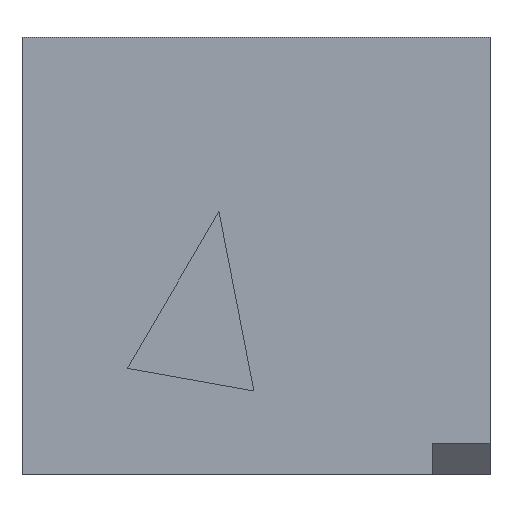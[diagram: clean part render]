
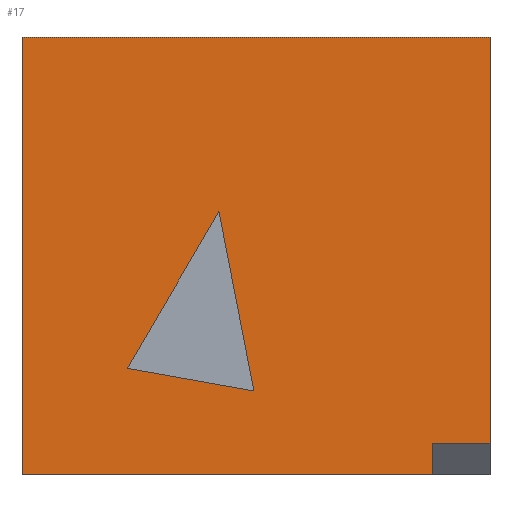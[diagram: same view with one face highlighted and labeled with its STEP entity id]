
A CAD part, left-side view. The second image highlights one B-rep face of the part: STEP entity #17.
In plain terms, the highlighted planar face has unit normal (-1, 0, 0).
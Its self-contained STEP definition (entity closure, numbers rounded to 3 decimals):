
#17 = ADVANCED_FACE('f000',(#18,#193),#32,.F.);
#18 = FACE_BOUND('',#19,.F.);
#19 = EDGE_LOOP('',(#20,#55,#83,#111,#139,#167));
#20 = ORIENTED_EDGE('',*,*,#21,.F.);
#21 = EDGE_CURVE('',#22,#24,#26,.T.);
#22 = VERTEX_POINT('',#23);
#23 = CARTESIAN_POINT('',(0.,0.,2.905));
#24 = VERTEX_POINT('',#25);
#25 = CARTESIAN_POINT('',(0.,0.,40.275));
#26 = SURFACE_CURVE('',#27,(#31,#43),.PCURVE_S1.);
#27 = LINE('',#28,#29);
#28 = CARTESIAN_POINT('',(0.,0.,0.));
#29 = VECTOR('',#30,1.);
#30 = DIRECTION('',(0.,0.,1.));
#31 = PCURVE('',#32,#37);
#32 = PLANE('',#33);
#33 = AXIS2_PLACEMENT_3D('',#34,#35,#36);
#34 = CARTESIAN_POINT('',(0.,0.,0.));
#35 = DIRECTION('',(1.,0.,-0.));
#36 = DIRECTION('',(0.,0.,1.));
#37 = DEFINITIONAL_REPRESENTATION('',(#38),#42);
#38 = LINE('',#39,#40);
#39 = CARTESIAN_POINT('',(0.,0.));
#40 = VECTOR('',#41,1.);
#41 = DIRECTION('',(1.,0.));
#42 = ( GEOMETRIC_REPRESENTATION_CONTEXT(2) 
PARAMETRIC_REPRESENTATION_CONTEXT() REPRESENTATION_CONTEXT('2D SPACE',''
  ) );
#43 = PCURVE('',#44,#49);
#44 = PLANE('',#45);
#45 = AXIS2_PLACEMENT_3D('',#46,#47,#48);
#46 = CARTESIAN_POINT('',(0.,0.,0.));
#47 = DIRECTION('',(-0.,1.,0.));
#48 = DIRECTION('',(0.,0.,1.));
#49 = DEFINITIONAL_REPRESENTATION('',(#50),#54);
#50 = LINE('',#51,#52);
#51 = CARTESIAN_POINT('',(0.,0.));
#52 = VECTOR('',#53,1.);
#53 = DIRECTION('',(1.,0.));
#54 = ( GEOMETRIC_REPRESENTATION_CONTEXT(2) 
PARAMETRIC_REPRESENTATION_CONTEXT() REPRESENTATION_CONTEXT('2D SPACE',''
  ) );
#55 = ORIENTED_EDGE('',*,*,#56,.T.);
#56 = EDGE_CURVE('',#22,#57,#59,.T.);
#57 = VERTEX_POINT('',#58);
#58 = CARTESIAN_POINT('',(0.,5.306,2.905));
#59 = SURFACE_CURVE('',#60,(#64,#71),.PCURVE_S1.);
#60 = LINE('',#61,#62);
#61 = CARTESIAN_POINT('',(0.,0.,2.905));
#62 = VECTOR('',#63,1.);
#63 = DIRECTION('',(-0.,1.,0.));
#64 = PCURVE('',#32,#65);
#65 = DEFINITIONAL_REPRESENTATION('',(#66),#70);
#66 = LINE('',#67,#68);
#67 = CARTESIAN_POINT('',(2.905,0.));
#68 = VECTOR('',#69,1.);
#69 = DIRECTION('',(0.,-1.));
#70 = ( GEOMETRIC_REPRESENTATION_CONTEXT(2) 
PARAMETRIC_REPRESENTATION_CONTEXT() REPRESENTATION_CONTEXT('2D SPACE',''
  ) );
#71 = PCURVE('',#72,#77);
#72 = PLANE('',#73);
#73 = AXIS2_PLACEMENT_3D('',#74,#75,#76);
#74 = CARTESIAN_POINT('',(6.833,0.,0.));
#75 = DIRECTION('',(0.391,0.,0.92));
#76 = DIRECTION('',(-0.92,0.,0.391));
#77 = DEFINITIONAL_REPRESENTATION('',(#78),#82);
#78 = LINE('',#79,#80);
#79 = CARTESIAN_POINT('',(7.425,0.));
#80 = VECTOR('',#81,1.);
#81 = DIRECTION('',(0.,-1.));
#82 = ( GEOMETRIC_REPRESENTATION_CONTEXT(2) 
PARAMETRIC_REPRESENTATION_CONTEXT() REPRESENTATION_CONTEXT('2D SPACE',''
  ) );
#83 = ORIENTED_EDGE('',*,*,#84,.T.);
#84 = EDGE_CURVE('',#57,#85,#87,.T.);
#85 = VERTEX_POINT('',#86);
#86 = CARTESIAN_POINT('',(0.,5.306,0.));
#87 = SURFACE_CURVE('',#88,(#92,#99),.PCURVE_S1.);
#88 = LINE('',#89,#90);
#89 = CARTESIAN_POINT('',(0.,5.306,2.905));
#90 = VECTOR('',#91,1.);
#91 = DIRECTION('',(0.,0.,-1.));
#92 = PCURVE('',#32,#93);
#93 = DEFINITIONAL_REPRESENTATION('',(#94),#98);
#94 = LINE('',#95,#96);
#95 = CARTESIAN_POINT('',(2.905,-5.306));
#96 = VECTOR('',#97,1.);
#97 = DIRECTION('',(-1.,0.));
#98 = ( GEOMETRIC_REPRESENTATION_CONTEXT(2) 
PARAMETRIC_REPRESENTATION_CONTEXT() REPRESENTATION_CONTEXT('2D SPACE',''
  ) );
#99 = PCURVE('',#100,#105);
#100 = PLANE('',#101);
#101 = AXIS2_PLACEMENT_3D('',#102,#103,#104);
#102 = CARTESIAN_POINT('',(2.838,5.306,0.874)
  );
#103 = DIRECTION('',(-0.,-1.,-0.));
#104 = DIRECTION('',(0.,0.,-1.));
#105 = DEFINITIONAL_REPRESENTATION('',(#106),#110);
#106 = LINE('',#107,#108);
#107 = CARTESIAN_POINT('',(-2.031,-2.838));
#108 = VECTOR('',#109,1.);
#109 = DIRECTION('',(1.,0.));
#110 = ( GEOMETRIC_REPRESENTATION_CONTEXT(2) 
PARAMETRIC_REPRESENTATION_CONTEXT() REPRESENTATION_CONTEXT('2D SPACE',''
  ) );
#111 = ORIENTED_EDGE('',*,*,#112,.T.);
#112 = EDGE_CURVE('',#85,#113,#115,.T.);
#113 = VERTEX_POINT('',#114);
#114 = CARTESIAN_POINT('',(0.,43.039,0.));
#115 = SURFACE_CURVE('',#116,(#120,#127),.PCURVE_S1.);
#116 = LINE('',#117,#118);
#117 = CARTESIAN_POINT('',(0.,0.,0.));
#118 = VECTOR('',#119,1.);
#119 = DIRECTION('',(-0.,1.,0.));
#120 = PCURVE('',#32,#121);
#121 = DEFINITIONAL_REPRESENTATION('',(#122),#126);
#122 = LINE('',#123,#124);
#123 = CARTESIAN_POINT('',(0.,0.));
#124 = VECTOR('',#125,1.);
#125 = DIRECTION('',(0.,-1.));
#126 = ( GEOMETRIC_REPRESENTATION_CONTEXT(2) 
PARAMETRIC_REPRESENTATION_CONTEXT() REPRESENTATION_CONTEXT('2D SPACE',''
  ) );
#127 = PCURVE('',#128,#133);
#128 = PLANE('',#129);
#129 = AXIS2_PLACEMENT_3D('',#130,#131,#132);
#130 = CARTESIAN_POINT('',(0.,0.,0.));
#131 = DIRECTION('',(0.,0.,1.));
#132 = DIRECTION('',(1.,0.,-0.));
#133 = DEFINITIONAL_REPRESENTATION('',(#134),#138);
#134 = LINE('',#135,#136);
#135 = CARTESIAN_POINT('',(0.,0.));
#136 = VECTOR('',#137,1.);
#137 = DIRECTION('',(0.,1.));
#138 = ( GEOMETRIC_REPRESENTATION_CONTEXT(2) 
PARAMETRIC_REPRESENTATION_CONTEXT() REPRESENTATION_CONTEXT('2D SPACE',''
  ) );
#139 = ORIENTED_EDGE('',*,*,#140,.T.);
#140 = EDGE_CURVE('',#113,#141,#143,.T.);
#141 = VERTEX_POINT('',#142);
#142 = CARTESIAN_POINT('',(0.,43.039,40.275));
#143 = SURFACE_CURVE('',#144,(#148,#155),.PCURVE_S1.);
#144 = LINE('',#145,#146);
#145 = CARTESIAN_POINT('',(0.,43.039,0.));
#146 = VECTOR('',#147,1.);
#147 = DIRECTION('',(0.,0.,1.));
#148 = PCURVE('',#32,#149);
#149 = DEFINITIONAL_REPRESENTATION('',(#150),#154);
#150 = LINE('',#151,#152);
#151 = CARTESIAN_POINT('',(0.,-43.039));
#152 = VECTOR('',#153,1.);
#153 = DIRECTION('',(1.,0.));
#154 = ( GEOMETRIC_REPRESENTATION_CONTEXT(2) 
PARAMETRIC_REPRESENTATION_CONTEXT() REPRESENTATION_CONTEXT('2D SPACE',''
  ) );
#155 = PCURVE('',#156,#161);
#156 = PLANE('',#157);
#157 = AXIS2_PLACEMENT_3D('',#158,#159,#160);
#158 = CARTESIAN_POINT('',(0.,43.039,0.));
#159 = DIRECTION('',(-0.,1.,0.));
#160 = DIRECTION('',(0.,0.,1.));
#161 = DEFINITIONAL_REPRESENTATION('',(#162),#166);
#162 = LINE('',#163,#164);
#163 = CARTESIAN_POINT('',(0.,0.));
#164 = VECTOR('',#165,1.);
#165 = DIRECTION('',(1.,0.));
#166 = ( GEOMETRIC_REPRESENTATION_CONTEXT(2) 
PARAMETRIC_REPRESENTATION_CONTEXT() REPRESENTATION_CONTEXT('2D SPACE',''
  ) );
#167 = ORIENTED_EDGE('',*,*,#168,.F.);
#168 = EDGE_CURVE('',#24,#141,#169,.T.);
#169 = SURFACE_CURVE('',#170,(#174,#181),.PCURVE_S1.);
#170 = LINE('',#171,#172);
#171 = CARTESIAN_POINT('',(0.,0.,40.275));
#172 = VECTOR('',#173,1.);
#173 = DIRECTION('',(-0.,1.,0.));
#174 = PCURVE('',#32,#175);
#175 = DEFINITIONAL_REPRESENTATION('',(#176),#180);
#176 = LINE('',#177,#178);
#177 = CARTESIAN_POINT('',(40.275,0.));
#178 = VECTOR('',#179,1.);
#179 = DIRECTION('',(0.,-1.));
#180 = ( GEOMETRIC_REPRESENTATION_CONTEXT(2) 
PARAMETRIC_REPRESENTATION_CONTEXT() REPRESENTATION_CONTEXT('2D SPACE',''
  ) );
#181 = PCURVE('',#182,#187);
#182 = PLANE('',#183);
#183 = AXIS2_PLACEMENT_3D('',#184,#185,#186);
#184 = CARTESIAN_POINT('',(0.,0.,40.275));
#185 = DIRECTION('',(0.,0.,1.));
#186 = DIRECTION('',(1.,0.,-0.));
#187 = DEFINITIONAL_REPRESENTATION('',(#188),#192);
#188 = LINE('',#189,#190);
#189 = CARTESIAN_POINT('',(0.,0.));
#190 = VECTOR('',#191,1.);
#191 = DIRECTION('',(0.,1.));
#192 = ( GEOMETRIC_REPRESENTATION_CONTEXT(2) 
PARAMETRIC_REPRESENTATION_CONTEXT() REPRESENTATION_CONTEXT('2D SPACE',''
  ) );
#193 = FACE_BOUND('',#194,.F.);
#194 = EDGE_LOOP('',(#195,#225,#253));
#195 = ORIENTED_EDGE('',*,*,#196,.T.);
#196 = EDGE_CURVE('',#197,#199,#201,.T.);
#197 = VERTEX_POINT('',#198);
#198 = CARTESIAN_POINT('',(0.,33.357,9.806));
#199 = VERTEX_POINT('',#200);
#200 = CARTESIAN_POINT('',(0.,21.719,7.73));
#201 = SURFACE_CURVE('',#202,(#206,#213),.PCURVE_S1.);
#202 = LINE('',#203,#204);
#203 = CARTESIAN_POINT('',(0.,33.357,9.806));
#204 = VECTOR('',#205,1.);
#205 = DIRECTION('',(0.,-0.984,-0.176));
#206 = PCURVE('',#32,#207);
#207 = DEFINITIONAL_REPRESENTATION('',(#208),#212);
#208 = LINE('',#209,#210);
#209 = CARTESIAN_POINT('',(9.806,-33.357));
#210 = VECTOR('',#211,1.);
#211 = DIRECTION('',(-0.176,0.984));
#212 = ( GEOMETRIC_REPRESENTATION_CONTEXT(2) 
PARAMETRIC_REPRESENTATION_CONTEXT() REPRESENTATION_CONTEXT('2D SPACE',''
  ) );
#213 = PCURVE('',#214,#219);
#214 = PLANE('',#215);
#215 = AXIS2_PLACEMENT_3D('',#216,#217,#218);
#216 = CARTESIAN_POINT('',(0.,33.357,9.806));
#217 = DIRECTION('',(-0.,0.176,-0.984));
#218 = DIRECTION('',(0.,-0.984,-0.176));
#219 = DEFINITIONAL_REPRESENTATION('',(#220),#224);
#220 = LINE('',#221,#222);
#221 = CARTESIAN_POINT('',(0.,0.));
#222 = VECTOR('',#223,1.);
#223 = DIRECTION('',(1.,0.));
#224 = ( GEOMETRIC_REPRESENTATION_CONTEXT(2) 
PARAMETRIC_REPRESENTATION_CONTEXT() REPRESENTATION_CONTEXT('2D SPACE',''
  ) );
#225 = ORIENTED_EDGE('',*,*,#226,.T.);
#226 = EDGE_CURVE('',#199,#227,#229,.T.);
#227 = VERTEX_POINT('',#228);
#228 = CARTESIAN_POINT('',(0.,24.93,24.208));
#229 = SURFACE_CURVE('',#230,(#234,#241),.PCURVE_S1.);
#230 = LINE('',#231,#232);
#231 = CARTESIAN_POINT('',(0.,21.719,7.73));
#232 = VECTOR('',#233,1.);
#233 = DIRECTION('',(0.,0.191,0.982));
#234 = PCURVE('',#32,#235);
#235 = DEFINITIONAL_REPRESENTATION('',(#236),#240);
#236 = LINE('',#237,#238);
#237 = CARTESIAN_POINT('',(7.73,-21.719));
#238 = VECTOR('',#239,1.);
#239 = DIRECTION('',(0.982,-0.191));
#240 = ( GEOMETRIC_REPRESENTATION_CONTEXT(2) 
PARAMETRIC_REPRESENTATION_CONTEXT() REPRESENTATION_CONTEXT('2D SPACE',''
  ) );
#241 = PCURVE('',#242,#247);
#242 = PLANE('',#243);
#243 = AXIS2_PLACEMENT_3D('',#244,#245,#246);
#244 = CARTESIAN_POINT('',(0.,21.719,7.73));
#245 = DIRECTION('',(0.,-0.982,0.191));
#246 = DIRECTION('',(0.,0.191,0.982));
#247 = DEFINITIONAL_REPRESENTATION('',(#248),#252);
#248 = LINE('',#249,#250);
#249 = CARTESIAN_POINT('',(0.,0.));
#250 = VECTOR('',#251,1.);
#251 = DIRECTION('',(1.,0.));
#252 = ( GEOMETRIC_REPRESENTATION_CONTEXT(2) 
PARAMETRIC_REPRESENTATION_CONTEXT() REPRESENTATION_CONTEXT('2D SPACE',''
  ) );
#253 = ORIENTED_EDGE('',*,*,#254,.T.);
#254 = EDGE_CURVE('',#227,#197,#255,.T.);
#255 = SURFACE_CURVE('',#256,(#260,#267),.PCURVE_S1.);
#256 = LINE('',#257,#258);
#257 = CARTESIAN_POINT('',(0.,24.93,24.208));
#258 = VECTOR('',#259,1.);
#259 = DIRECTION('',(0.,0.505,-0.863));
#260 = PCURVE('',#32,#261);
#261 = DEFINITIONAL_REPRESENTATION('',(#262),#266);
#262 = LINE('',#263,#264);
#263 = CARTESIAN_POINT('',(24.208,-24.93));
#264 = VECTOR('',#265,1.);
#265 = DIRECTION('',(-0.863,-0.505));
#266 = ( GEOMETRIC_REPRESENTATION_CONTEXT(2) 
PARAMETRIC_REPRESENTATION_CONTEXT() REPRESENTATION_CONTEXT('2D SPACE',''
  ) );
#267 = PCURVE('',#268,#273);
#268 = PLANE('',#269);
#269 = AXIS2_PLACEMENT_3D('',#270,#271,#272);
#270 = CARTESIAN_POINT('',(0.,24.93,24.208));
#271 = DIRECTION('',(0.,0.863,0.505));
#272 = DIRECTION('',(0.,0.505,-0.863));
#273 = DEFINITIONAL_REPRESENTATION('',(#274),#278);
#274 = LINE('',#275,#276);
#275 = CARTESIAN_POINT('',(0.,0.));
#276 = VECTOR('',#277,1.);
#277 = DIRECTION('',(1.,0.));
#278 = ( GEOMETRIC_REPRESENTATION_CONTEXT(2) 
PARAMETRIC_REPRESENTATION_CONTEXT() REPRESENTATION_CONTEXT('2D SPACE',''
  ) );
